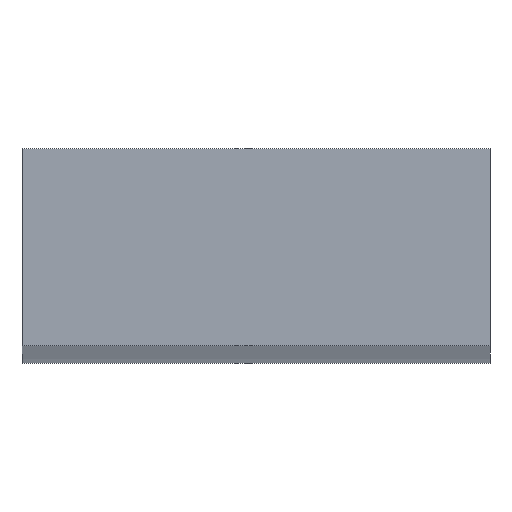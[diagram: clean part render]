
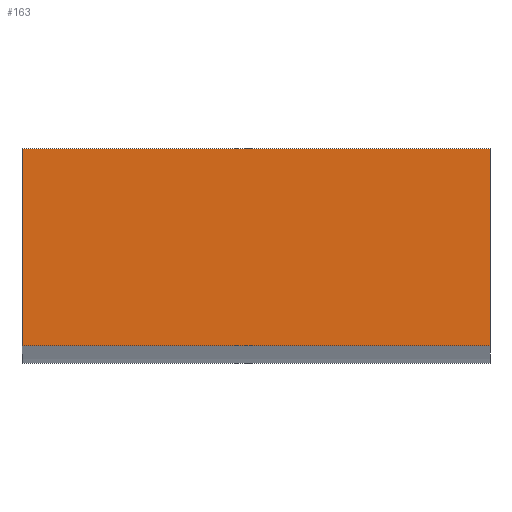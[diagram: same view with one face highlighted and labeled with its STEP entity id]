
A CAD part, front view. The second image highlights one B-rep face of the part: STEP entity #163.
In plain terms, the highlighted planar face has unit normal (0, -1, 0).
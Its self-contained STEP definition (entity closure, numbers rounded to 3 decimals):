
#18=PLANE('',#188);
#27=FACE_OUTER_BOUND('',#36,.T.);
#36=EDGE_LOOP('',(#138,#139,#140,#141));
#41=LINE('',#242,#60);
#43=LINE('',#248,#62);
#51=LINE('',#264,#70);
#56=LINE('',#273,#75);
#60=VECTOR('',#199,1.);
#62=VECTOR('',#205,1.);
#70=VECTOR('',#217,1.);
#75=VECTOR('',#224,1.);
#81=VERTEX_POINT('',#238);
#83=VERTEX_POINT('',#241);
#85=VERTEX_POINT('',#247);
#91=VERTEX_POINT('',#263);
#96=EDGE_CURVE('',#83,#81,#41,.T.);
#99=EDGE_CURVE('',#81,#85,#43,.T.);
#107=EDGE_CURVE('',#83,#91,#51,.T.);
#112=EDGE_CURVE('',#91,#85,#56,.T.);
#138=ORIENTED_EDGE('',*,*,#96,.T.);
#139=ORIENTED_EDGE('',*,*,#99,.T.);
#140=ORIENTED_EDGE('',*,*,#112,.F.);
#141=ORIENTED_EDGE('',*,*,#107,.F.);
#163=ADVANCED_FACE('',(#27),#18,.F.);
#188=AXIS2_PLACEMENT_3D('',#272,#222,#223);
#199=DIRECTION('',(1.,0.,0.));
#205=DIRECTION('',(0.,0.,1.));
#217=DIRECTION('',(0.,0.,1.));
#222=DIRECTION('center_axis',(0.,1.,0.));
#223=DIRECTION('ref_axis',(0.,0.,1.));
#224=DIRECTION('',(1.,0.,0.));
#238=CARTESIAN_POINT('',(-6.1,1.65,-9.728));
#241=CARTESIAN_POINT('',(-6.7,1.65,-9.728));
#242=CARTESIAN_POINT('',(-6.7,1.65,-9.728));
#247=CARTESIAN_POINT('',(-6.1,1.65,-9.475));
#248=CARTESIAN_POINT('',(-6.1,1.65,-8.775));
#263=CARTESIAN_POINT('',(-6.7,1.65,-9.475));
#264=CARTESIAN_POINT('',(-6.7,1.65,-8.775));
#272=CARTESIAN_POINT('Origin',(-6.71,1.65,-10.55));
#273=CARTESIAN_POINT('',(-6.903,1.65,-9.475));
